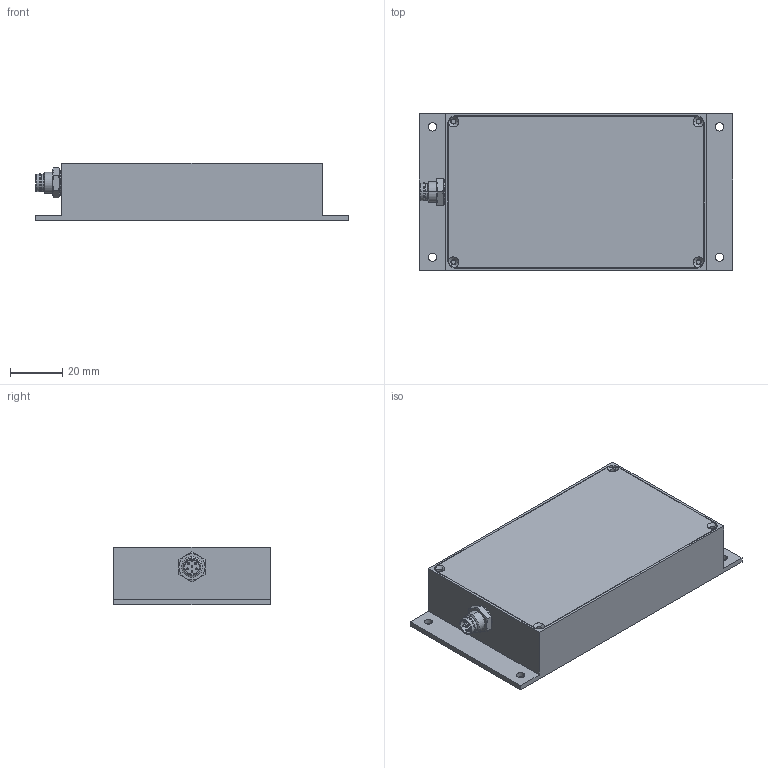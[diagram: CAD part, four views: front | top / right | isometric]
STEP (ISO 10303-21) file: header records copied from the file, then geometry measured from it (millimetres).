
FILE_DESCRIPTION(('STEP AP214'),'1');
FILE_NAME('TL-HL-P2.stp','2018-10-05T15:00:35',(' '),(' '),'Spatial InterOp 3D',' ',' ');
FILE_SCHEMA(('AUTOMOTIVE_DESIGN { 1 0 10303 214 1 1 1 1 }'));
Length unit declared in the file: metre
Products named in the file (3): TL-HL-P2; Stecker
Assembly tree (2 placements, depth 2):
  TL-HL-P2
    TL-HL-P2
    Stecker
Bounding box: 120 x 60 x 22 mm (x, y, z)
Volume: 53468.9 mm3; surface area: 38193 mm2
Topology: 2 solids, 2 shells, 222 faces, 517 edges, 306 vertices
Faces by surface type: cylinder 93, plane 61, cone 44, torus 12, sphere 12
Entity records: 8313 total; most frequent: CARTESIAN_POINT 1372, DIRECTION 1162, ORIENTED_EDGE 986, EDGE_CURVE 493, AXIS2_PLACEMENT_3D 484, VERTEX_POINT 306, EDGE_LOOP 261, CIRCLE 259
